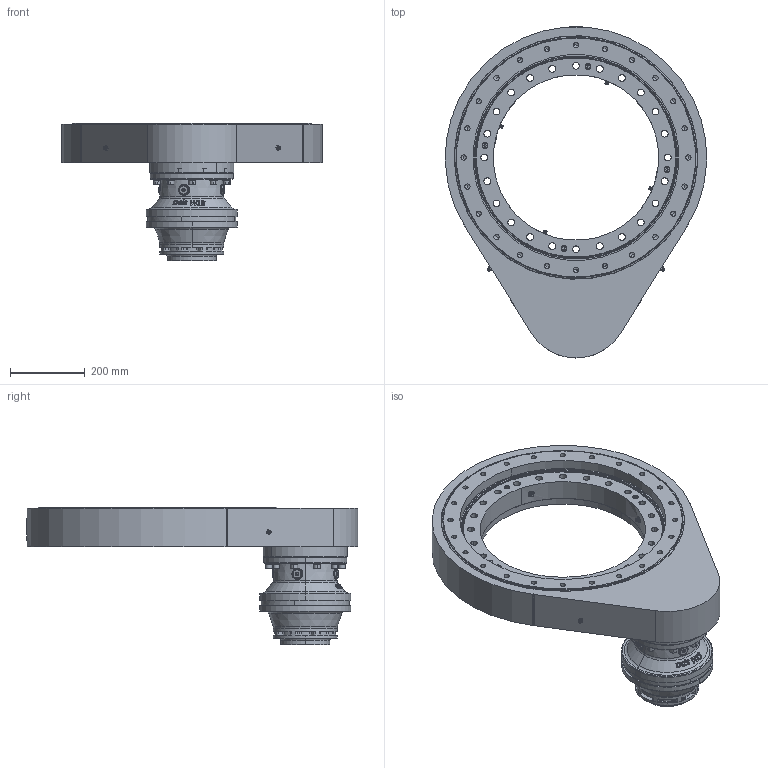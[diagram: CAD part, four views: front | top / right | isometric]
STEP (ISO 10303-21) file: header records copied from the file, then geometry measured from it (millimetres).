
FILE_DESCRIPTION((''),'2;1');
FILE_NAME('RGS20550-K25EA08-001-900','2024-12-20T11:29:42',('cobmac0'),('LIEBHERR'),'CREO PARAMETRIC BY PTC INC, 2024133','CREO PARAMETRIC BY PTC INC, 2024133','');
FILE_SCHEMA(('AP242_MANAGED_MODEL_BASED_3D_ENGINEERING_MIM_LF { 1 0 10303 442 1 1 4 }'));
Products named in the file (1): RGS20550-K25EA08-001-900
Bounding box: 697.37 x 886 x 367 mm (x, y, z)
Volume: 34700011.3 mm3; surface area: 1399186.3 mm2
Topology: 1 solids, 3 shells, 1278 faces, 3168 edges, 1987 vertices
Faces by surface type: cylinder 506, plane 444, cone 231, torus 97
Entity records: 59491 total; most frequent: CARTESIAN_POINT 11489, DIRECTION 6292, ORIENTED_EDGE 6128, PRESENTATION_STYLE_ASSIGNMENT 4318, STYLED_ITEM 3065, CURVE_STYLE 3064, EDGE_CURVE 3064, AXIS2_PLACEMENT_3D 2517
